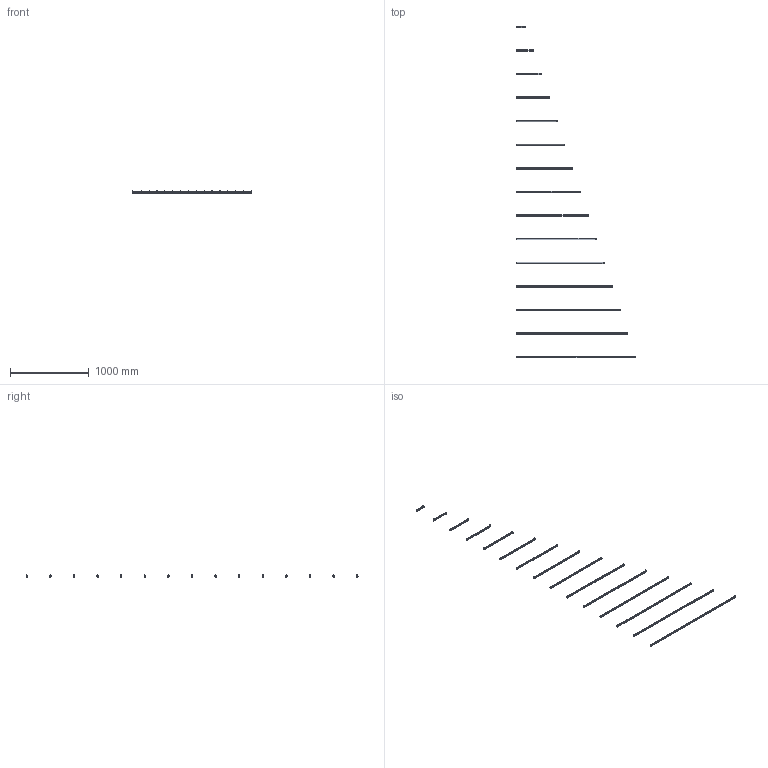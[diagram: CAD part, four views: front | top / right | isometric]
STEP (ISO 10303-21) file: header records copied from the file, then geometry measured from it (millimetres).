
FILE_DESCRIPTION(/* description */ (''),/* implementation_level */ '2;1');
FILE_NAME(/* name */ 'C:/Users/elena/OneDrive/Allegati di posta elettronica/Desktop/Piko Goccia 01C.step',/* time_stamp */ '2020-05-19T12:52:06+02:00',/* author */ (''),/* organization */ (''),/* preprocessor_version */ 'ST-DEVELOPER v18.1',/* originating_system */ 'Autodesk Translation Framework v9.3.0.1241',/* authorisation */ '');
FILE_SCHEMA (('AUTOMOTIVE_DESIGN { 1 0 10303 214 3 1 1 }'));
Products named in the file (2): Piko Goccia 01C; 01C
Assembly tree (1 placements, depth 2):
  Piko Goccia 01C
    01C
Bounding box: 1520 x 4219.77 x 29.83 mm (x, y, z)
Volume: 2987612.7 mm3; surface area: 1451963.1 mm2
Topology: 90 solids, 90 shells, 1848 faces, 4539 edges, 3021 vertices
Faces by surface type: cylinder 960, plane 768, bspline 90, cone 30
Full cylindrical faces by diameter (mm): 2.5 x60, 3 x30, 6 x30, 19.8 x30
Entity records: 73507 total; most frequent: CARTESIAN_POINT 28401, DIRECTION 9831, ORIENTED_EDGE 9078, EDGE_CURVE 4539, AXIS2_PLACEMENT_3D 3711, VERTEX_POINT 3021, LINE 2409, VECTOR 2409
